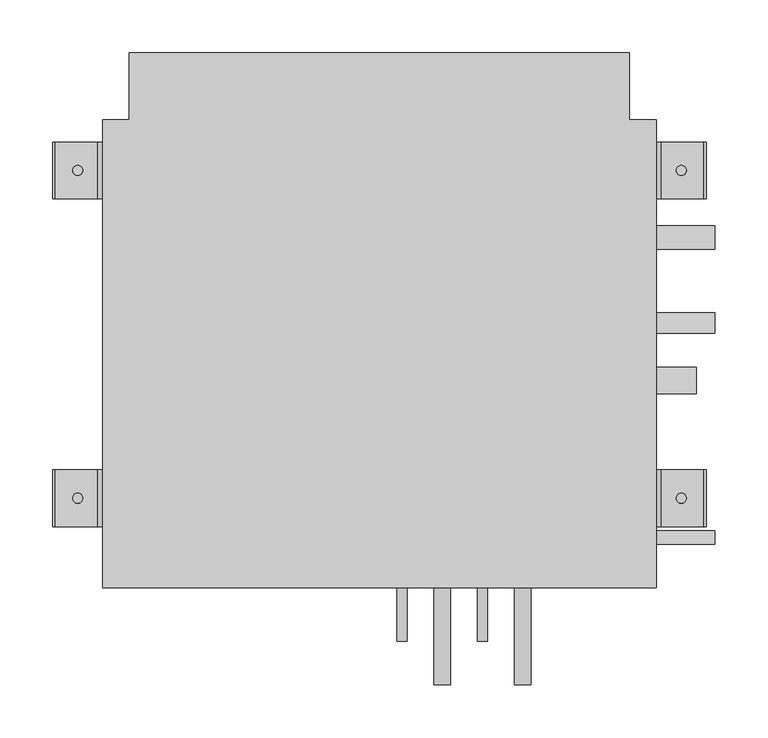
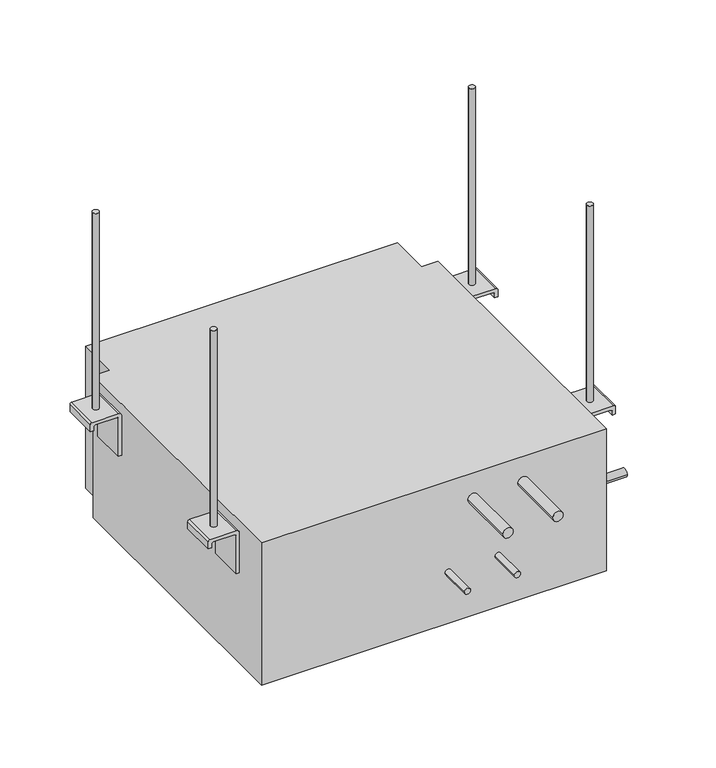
"""IFC4 building model written with IfcOpenShell, lengths in millimetres: proxy geometry, Lennox-VRF-Mode_Selection_Box-V8MSBB01_V8MSBB02-2P_Series : V8MSBB01."""

from ifc_helpers import new_model, si_unit, point, frame, frame_2d, origin, origin_with_axes, place, context, project, spatial, polyline, circle_curve, trimmed, segment, composite_curve, outline, extrude, source, transform, mapped, element, save
from ifc_brep_helpers import plane_surface, cylinder_surface, revolved_surface, advanced_brep


def mechanical_equipment_b168ff37(model_context):
    return source(origin(), model_context, "Body", "SolidModel", [
        advanced_brep(
        [(-262.9186155, -195.834, 146.05), (-262.9186155, -195.834, 210.0259829), (-267.5226326, -195.834, 214.63), (-307.8766155, -195.834, 214.63), (-310.4166155, -195.834, 212.09), (-310.4166155, -195.834, 200.66), (-305.3366155, -195.834, 200.66), (-305.3366155, -195.834, 207.01), (-302.7966155, -195.834, 209.55), (-270.5386155, -195.834, 209.55), (-267.9986155, -195.834, 207.01), (-267.9986155, -195.834, 146.05), (-262.9186155, -141.986, 146.05), (-267.9986155, -141.986, 146.05), (-267.9986155, -141.986, 207.01), (-270.5386155, -141.986, 209.55), (-302.7966155, -141.986, 209.55), (-305.3366155, -141.986, 207.01), (-305.3366155, -141.986, 200.66), (-310.4166155, -141.986, 200.66), (-310.4166155, -141.986, 212.09), (-307.8766155, -141.986, 214.63), (-267.5226326, -141.986, 214.63), (-262.9186155, -141.986, 210.0259829), (-281.9051155, -168.91, 214.63), (-291.4301155, -168.91, 214.63), (-291.4301155, -168.91, 209.55), (-281.9051155, -168.91, 209.55), (-291.4301155, -168.91, 530.6255), (-281.9051155, -168.91, 530.6255), (-291.4301155, -168.91, 198.8375), (-281.9051155, -168.91, 198.8375)],
        [
            (0, 1),
            (1, 2, circle_curve(frame((-267.5226326, -195.834, 210.0259829), z_axis=(0.0, -1.0, 0.0), x_axis=(1.0, 0.0, 0.0)), 4.6040171)),
            (2, 3),
            (3, 4, circle_curve(frame((-307.8766155, -195.834, 212.09), z_axis=(0.0, -1.0, 0.0), x_axis=(1.0, 0.0, 0.0)), 2.54)),
            (4, 5),
            (5, 6),
            (6, 7),
            (7, 8, circle_curve(frame((-302.7966155, -195.834, 207.01), z_axis=(0.0, 1.0, 0.0), x_axis=(1.0, 0.0, 0.0)), 2.54)),
            (8, 9),
            (9, 10, circle_curve(frame((-270.5386155, -195.834, 207.01), z_axis=(0.0, 1.0, 0.0), x_axis=(1.0, 0.0, 0.0)), 2.54)),
            (10, 11),
            (11, 0),
            (12, 13),
            (13, 14),
            (14, 15, circle_curve(frame((-270.5386155, -141.986, 207.01), z_axis=(0.0, -1.0, 0.0), x_axis=(1.0, 0.0, 0.0)), 2.54)),
            (15, 16),
            (16, 17, circle_curve(frame((-302.7966155, -141.986, 207.01), z_axis=(0.0, -1.0, 0.0), x_axis=(1.0, 0.0, 0.0)), 2.54)),
            (17, 18),
            (18, 19),
            (19, 20),
            (20, 21, circle_curve(frame((-307.8766155, -141.986, 212.09), z_axis=(0.0, 1.0, 0.0), x_axis=(1.0, 0.0, 0.0)), 2.54)),
            (21, 22),
            (22, 23, circle_curve(frame((-267.5226326, -141.986, 210.0259829), z_axis=(0.0, 1.0, 0.0), x_axis=(1.0, 0.0, 0.0)), 4.6040171)),
            (23, 12),
            (0, 12),
            (23, 1),
            (22, 2),
            (21, 3),
            (24, 25, circle_curve(frame((-286.6676155, -168.91, 214.63), z_axis=(0.0, 0.0, -1.0), x_axis=(1.0, 0.0, 0.0)), 4.7625)),
            (25, 24, circle_curve(frame((-286.6676155, -168.91, 214.63), z_axis=(0.0, 0.0, -1.0), x_axis=(1.0, 0.0, 0.0)), 4.7625)),
            (20, 4),
            (19, 5),
            (18, 6),
            (17, 7),
            (16, 8),
            (15, 9),
            (26, 27, circle_curve(frame((-286.6676155, -168.91, 209.55), z_axis=(0.0, 0.0, 1.0), x_axis=(1.0, 0.0, 0.0)), 4.7625)),
            (27, 26, circle_curve(frame((-286.6676155, -168.91, 209.55), z_axis=(0.0, 0.0, 1.0), x_axis=(1.0, 0.0, 0.0)), 4.7625)),
            (14, 10),
            (13, 11),
            (28, 29, circle_curve(frame((-286.6676155, -168.91, 530.6255), z_axis=(0.0, 0.0, 1.0), x_axis=(1.0, 0.0, 0.0)), 4.7625)),
            (29, 28, circle_curve(frame((-286.6676155, -168.91, 530.6255), z_axis=(0.0, 0.0, 1.0), x_axis=(1.0, 0.0, 0.0)), 4.7625)),
            (30, 31, circle_curve(frame((-286.6676155, -168.91, 198.8375), z_axis=(0.0, 0.0, -1.0), x_axis=(1.0, 0.0, 0.0)), 4.7625)),
            (31, 30, circle_curve(frame((-286.6676155, -168.91, 198.8375), z_axis=(0.0, 0.0, -1.0), x_axis=(1.0, 0.0, 0.0)), 4.7625)),
            (28, 25),
            (24, 29),
            (31, 27),
            (26, 30),
        ],
        [
            plane_surface(frame((-262.9186155, -195.834, 210.0259829), z_axis=(0.0, -1.0, 0.0), x_axis=(0.0, 0.0, 1.0))),
            plane_surface(frame((-262.9186155, -141.986, 210.0259829), z_axis=(0.0, 1.0, 0.0), x_axis=(0.0, 0.0, -1.0))),
            plane_surface(frame((-262.9186155, -195.834, 146.05), z_axis=(1.0, 0.0, 0.0), x_axis=(0.0, 1.0, 0.0))),
            cylinder_surface(frame((-267.5226326, -141.986, 210.0259829), z_axis=(0.0, -1.0, 0.0), x_axis=(1.0, 0.0, 0.0)), 4.6040171),
            plane_surface(frame((-267.5226326, -195.834, 214.63), z_axis=(0.0, 0.0, 1.0), x_axis=(0.0, 1.0, 0.0))),
            cylinder_surface(frame((-307.8766155, -141.986, 212.09), z_axis=(0.0, -1.0, 0.0), x_axis=(1.0, 0.0, 0.0)), 2.54),
            plane_surface(frame((-310.4166155, -195.834, 212.09), z_axis=(-1.0, 0.0, 0.0), x_axis=(0.0, 1.0, 0.0))),
            plane_surface(frame((-310.4166155, -195.834, 200.66), z_axis=(0.0, 0.0, -1.0), x_axis=(0.0, 1.0, 0.0))),
            plane_surface(frame((-305.3366155, -195.834, 200.66), z_axis=(1.0, 0.0, 0.0), x_axis=(0.0, 1.0, 0.0))),
            revolved_surface(polyline([(-300.25661549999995, -141.986, 207.01), (-300.25661549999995, -195.834, 207.01)]), (-302.7966155, -141.986, 207.01), (0.0, 1.0, 0.0)),
            plane_surface(frame((-302.7966155, -195.834, 209.55), z_axis=(0.0, 0.0, -1.0), x_axis=(0.0, 1.0, 0.0))),
            revolved_surface(polyline([(-267.99861549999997, -141.986, 207.01), (-267.99861549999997, -195.834, 207.01)]), (-270.5386155, -141.986, 207.01), (0.0, 1.0, 0.0)),
            plane_surface(frame((-267.9986155, -195.834, 207.01), z_axis=(-1.0, 0.0, 0.0), x_axis=(0.0, 1.0, 0.0))),
            plane_surface(frame((-267.9986155, -195.834, 146.05), z_axis=(0.0, 0.0, -1.0), x_axis=(0.0, 1.0, 0.0))),
            plane_surface(frame((-281.9051155, 142.2261094, 530.6255), z_axis=(0.0, 0.0, 1.0), x_axis=(0.0, 1.0, 0.0))),
            plane_surface(frame((-281.9051155, 142.2261094, 198.8375), z_axis=(0.0, 0.0, -1.0), x_axis=(0.0, -1.0, 0.0))),
            cylinder_surface(frame((-286.6676155, -168.91, 0.0), z_axis=(0.0, 0.0, 1.0), x_axis=(1.0, 0.0, 0.0)), 4.7625),
        ],
        [
            (0, [[1, 2, 3, 4, 5, 6, 7, 8, 9, 10, 11, 12]]),
            (1, [[13, 14, 15, 16, 17, 18, 19, 20, 21, 22, 23, 24]]),
            (2, [[-1, 25, -24, 26]]),
            (3, [[-2, -26, -23, 27]]),
            (4, [[-3, -27, -22, 28], [29, 30]]),
            (5, [[-4, -28, -21, 31]]),
            (6, [[-5, -31, -20, 32]]),
            (7, [[-6, -32, -19, 33]]),
            (8, [[-7, -33, -18, 34]]),
            (9, [[-8, -34, -17, 35]]),
            (10, [[-9, -35, -16, 36], [37, 38]]),
            (11, [[-10, -36, -15, 39]]),
            (12, [[-11, -39, -14, 40]]),
            (13, [[-12, -40, -13, -25]]),
            (14, [[41, 42]]),
            (15, [[43, 44]]),
            (16, [[-41, 45, -29, 46]]),
            (16, [[-44, 47, -37, 48]]),
            (16, [[-42, -46, -30, -45]]),
            (16, [[-43, -48, -38, -47]]),
        ],
    ),
        advanced_brep(
        [(-262.9186155, 115.2882187, 146.05), (-262.9186155, 115.2882187, 210.0259829), (-267.5226326, 115.2882187, 214.63), (-307.8766155, 115.2882187, 214.63), (-310.4166155, 115.2882187, 212.09), (-310.4166155, 115.2882187, 200.66), (-305.3366155, 115.2882187, 200.66), (-305.3366155, 115.2882187, 207.01), (-302.7966155, 115.2882187, 209.55), (-270.5386155, 115.2882187, 209.55), (-267.9986155, 115.2882187, 207.01), (-267.9986155, 115.2882187, 146.05), (-262.9186155, 169.164, 146.05), (-267.9986155, 169.164, 146.05), (-267.9986155, 169.164, 207.01), (-270.5386155, 169.164, 209.55), (-302.7966155, 169.164, 209.55), (-305.3366155, 169.164, 207.01), (-305.3366155, 169.164, 200.66), (-310.4166155, 169.164, 200.66), (-310.4166155, 169.164, 212.09), (-307.8766155, 169.164, 214.63), (-267.5226326, 169.164, 214.63), (-262.9186155, 169.164, 210.0259829), (-281.9051155, 142.2261094, 214.63), (-291.4301155, 142.2261094, 214.63), (-291.4301155, 142.2261094, 209.55), (-281.9051155, 142.2261094, 209.55), (-291.4301155, 142.2261094, 530.6255), (-281.9051155, 142.2261094, 530.6255), (-291.4301155, 142.2261094, 198.8375), (-281.9051155, 142.2261094, 198.8375)],
        [
            (0, 1),
            (1, 2, circle_curve(frame((-267.5226326, 115.2882187, 210.0259829), z_axis=(0.0, -1.0, 0.0), x_axis=(1.0, 0.0, 0.0)), 4.6040171)),
            (2, 3),
            (3, 4, circle_curve(frame((-307.8766155, 115.2882187, 212.09), z_axis=(0.0, -1.0, 0.0), x_axis=(1.0, 0.0, 0.0)), 2.54)),
            (4, 5),
            (5, 6),
            (6, 7),
            (7, 8, circle_curve(frame((-302.7966155, 115.2882187, 207.01), z_axis=(0.0, 1.0, 0.0), x_axis=(1.0, 0.0, 0.0)), 2.54)),
            (8, 9),
            (9, 10, circle_curve(frame((-270.5386155, 115.2882187, 207.01), z_axis=(0.0, 1.0, 0.0), x_axis=(1.0, 0.0, 0.0)), 2.54)),
            (10, 11),
            (11, 0),
            (12, 13),
            (13, 14),
            (14, 15, circle_curve(frame((-270.5386155, 169.164, 207.01), z_axis=(0.0, -1.0, 0.0), x_axis=(1.0, 0.0, 0.0)), 2.54)),
            (15, 16),
            (16, 17, circle_curve(frame((-302.7966155, 169.164, 207.01), z_axis=(0.0, -1.0, 0.0), x_axis=(1.0, 0.0, 0.0)), 2.54)),
            (17, 18),
            (18, 19),
            (19, 20),
            (20, 21, circle_curve(frame((-307.8766155, 169.164, 212.09), z_axis=(0.0, 1.0, 0.0), x_axis=(1.0, 0.0, 0.0)), 2.54)),
            (21, 22),
            (22, 23, circle_curve(frame((-267.5226326, 169.164, 210.0259829), z_axis=(0.0, 1.0, 0.0), x_axis=(1.0, 0.0, 0.0)), 4.6040171)),
            (23, 12),
            (0, 12),
            (23, 1),
            (22, 2),
            (21, 3),
            (24, 25, circle_curve(frame((-286.6676155, 142.2261094, 214.63), z_axis=(0.0, 0.0, -1.0), x_axis=(1.0, 0.0, 0.0)), 4.7625)),
            (25, 24, circle_curve(frame((-286.6676155, 142.2261094, 214.63), z_axis=(0.0, 0.0, -1.0), x_axis=(1.0, 0.0, 0.0)), 4.7625)),
            (20, 4),
            (19, 5),
            (18, 6),
            (17, 7),
            (16, 8),
            (15, 9),
            (26, 27, circle_curve(frame((-286.6676155, 142.2261094, 209.55), z_axis=(0.0, 0.0, 1.0), x_axis=(1.0, 0.0, 0.0)), 4.7625)),
            (27, 26, circle_curve(frame((-286.6676155, 142.2261094, 209.55), z_axis=(0.0, 0.0, 1.0), x_axis=(1.0, 0.0, 0.0)), 4.7625)),
            (14, 10),
            (13, 11),
            (28, 29, circle_curve(frame((-286.6676155, 142.2261094, 530.6255), z_axis=(0.0, 0.0, 1.0), x_axis=(1.0, 0.0, 0.0)), 4.7625)),
            (29, 28, circle_curve(frame((-286.6676155, 142.2261094, 530.6255), z_axis=(0.0, 0.0, 1.0), x_axis=(1.0, 0.0, 0.0)), 4.7625)),
            (30, 31, circle_curve(frame((-286.6676155, 142.2261094, 198.8375), z_axis=(0.0, 0.0, -1.0), x_axis=(1.0, 0.0, 0.0)), 4.7625)),
            (31, 30, circle_curve(frame((-286.6676155, 142.2261094, 198.8375), z_axis=(0.0, 0.0, -1.0), x_axis=(1.0, 0.0, 0.0)), 4.7625)),
            (28, 25),
            (24, 29),
            (31, 27),
            (26, 30),
        ],
        [
            plane_surface(frame((-262.9186155, 115.2882187, 210.0259829), z_axis=(0.0, -1.0, 0.0), x_axis=(0.0, 0.0, 1.0))),
            plane_surface(frame((-262.9186155, 169.164, 210.0259829), z_axis=(0.0, 1.0, 0.0), x_axis=(0.0, 0.0, -1.0))),
            plane_surface(frame((-262.9186155, 115.2882187, 146.05), z_axis=(1.0, 0.0, 0.0), x_axis=(0.0, 1.0, 0.0))),
            cylinder_surface(frame((-267.5226326, 169.164, 210.0259829), z_axis=(0.0, -1.0, 0.0), x_axis=(1.0, 0.0, 0.0)), 4.6040171),
            plane_surface(frame((-267.5226326, 115.2882187, 214.63), z_axis=(0.0, 0.0, 1.0), x_axis=(0.0, 1.0, 0.0))),
            cylinder_surface(frame((-307.8766155, 169.164, 212.09), z_axis=(0.0, -1.0, 0.0), x_axis=(1.0, 0.0, 0.0)), 2.54),
            plane_surface(frame((-310.4166155, 115.2882187, 212.09), z_axis=(-1.0, 0.0, 0.0), x_axis=(0.0, 1.0, 0.0))),
            plane_surface(frame((-310.4166155, 115.2882187, 200.66), z_axis=(0.0, 0.0, -1.0), x_axis=(0.0, 1.0, 0.0))),
            plane_surface(frame((-305.3366155, 115.2882187, 200.66), z_axis=(1.0, 0.0, 0.0), x_axis=(0.0, 1.0, 0.0))),
            revolved_surface(polyline([(-300.25661549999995, 169.164, 207.01), (-300.25661549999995, 115.2882187, 207.01)]), (-302.7966155, 169.164, 207.01), (0.0, 1.0, 0.0)),
            plane_surface(frame((-302.7966155, 115.2882187, 209.55), z_axis=(0.0, 0.0, -1.0), x_axis=(0.0, 1.0, 0.0))),
            revolved_surface(polyline([(-267.99861549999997, 169.164, 207.01), (-267.99861549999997, 115.2882187, 207.01)]), (-270.5386155, 169.164, 207.01), (0.0, 1.0, 0.0)),
            plane_surface(frame((-267.9986155, 115.2882187, 207.01), z_axis=(-1.0, 0.0, 0.0), x_axis=(0.0, 1.0, 0.0))),
            plane_surface(frame((-267.9986155, 115.2882187, 146.05), z_axis=(0.0, 0.0, -1.0), x_axis=(0.0, 1.0, 0.0))),
            plane_surface(frame((-281.9051155, 142.2261094, 530.6255), z_axis=(0.0, 0.0, 1.0), x_axis=(0.0, 1.0, 0.0))),
            plane_surface(frame((-281.9051155, 142.2261094, 198.8375), z_axis=(0.0, 0.0, -1.0), x_axis=(0.0, -1.0, 0.0))),
            cylinder_surface(frame((-286.6676155, 142.2261094, 198.8375), z_axis=(0.0, 0.0, 1.0), x_axis=(1.0, 0.0, 0.0)), 4.7625),
        ],
        [
            (0, [[1, 2, 3, 4, 5, 6, 7, 8, 9, 10, 11, 12]]),
            (1, [[13, 14, 15, 16, 17, 18, 19, 20, 21, 22, 23, 24]]),
            (2, [[-1, 25, -24, 26]]),
            (3, [[-2, -26, -23, 27]]),
            (4, [[-3, -27, -22, 28], [29, 30]]),
            (5, [[-4, -28, -21, 31]]),
            (6, [[-5, -31, -20, 32]]),
            (7, [[-6, -32, -19, 33]]),
            (8, [[-7, -33, -18, 34]]),
            (9, [[-8, -34, -17, 35]]),
            (10, [[-9, -35, -16, 36], [37, 38]]),
            (11, [[-10, -36, -15, 39]]),
            (12, [[-11, -39, -14, 40]]),
            (13, [[-12, -40, -13, -25]]),
            (14, [[41, 42]]),
            (15, [[43, 44]]),
            (16, [[-41, 45, -29, 46]]),
            (16, [[-44, 47, -37, 48]]),
            (16, [[-42, -46, -30, -45]]),
            (16, [[-43, -48, -38, -47]]),
        ],
    ),
        advanced_brep(
        [(267.9986155, 115.2882187, 146.05), (267.9986155, 115.2882187, 207.01), (270.5386155, 115.2882187, 209.55), (302.7966155, 115.2882187, 209.55), (305.3366155, 115.2882187, 207.01), (305.3366155, 115.2882187, 200.66), (310.4166155, 115.2882187, 200.66), (310.4166155, 115.2882187, 212.09), (307.8766155, 115.2882187, 214.63), (267.5226326, 115.2882187, 214.63), (262.9186155, 115.2882187, 210.0259829), (262.9186155, 115.2882187, 146.05), (267.9986155, 169.164, 146.05), (262.9186155, 169.164, 146.05), (262.9186155, 169.164, 210.0259829), (267.5226326, 169.164, 214.63), (307.8766155, 169.164, 214.63), (310.4166155, 169.164, 212.09), (310.4166155, 169.164, 200.66), (305.3366155, 169.164, 200.66), (305.3366155, 169.164, 207.01), (302.7966155, 169.164, 209.55), (270.5386155, 169.164, 209.55), (267.9986155, 169.164, 207.01), (281.9051155, 142.2261094, 209.55), (291.4301155, 142.2261094, 209.55), (291.4301155, 142.2261094, 214.63), (281.9051155, 142.2261094, 214.63), (281.9051155, 142.2261094, 530.6255), (291.4301155, 142.2261094, 530.6255), (281.9051155, 142.2261094, 198.8375), (291.4301155, 142.2261094, 198.8375)],
        [
            (0, 1),
            (1, 2, circle_curve(frame((270.5386155, 115.2882187, 207.01), z_axis=(0.0, 1.0, 0.0), x_axis=(1.0, 0.0, 0.0)), 2.54)),
            (2, 3),
            (3, 4, circle_curve(frame((302.7966155, 115.2882187, 207.01), z_axis=(0.0, 1.0, 0.0), x_axis=(1.0, 0.0, 0.0)), 2.54)),
            (4, 5),
            (5, 6),
            (6, 7),
            (7, 8, circle_curve(frame((307.8766155, 115.2882187, 212.09), z_axis=(0.0, -1.0, 0.0), x_axis=(1.0, 0.0, 0.0)), 2.54)),
            (8, 9),
            (9, 10, circle_curve(frame((267.5226326, 115.2882187, 210.0259829), z_axis=(0.0, -1.0, 0.0), x_axis=(1.0, 0.0, 0.0)), 4.6040171)),
            (10, 11),
            (11, 0),
            (12, 13),
            (13, 14),
            (14, 15, circle_curve(frame((267.5226326, 169.164, 210.0259829), z_axis=(0.0, 1.0, 0.0), x_axis=(1.0, 0.0, 0.0)), 4.6040171)),
            (15, 16),
            (16, 17, circle_curve(frame((307.8766155, 169.164, 212.09), z_axis=(0.0, 1.0, 0.0), x_axis=(1.0, 0.0, 0.0)), 2.54)),
            (17, 18),
            (18, 19),
            (19, 20),
            (20, 21, circle_curve(frame((302.7966155, 169.164, 207.01), z_axis=(0.0, -1.0, 0.0), x_axis=(1.0, 0.0, 0.0)), 2.54)),
            (21, 22),
            (22, 23, circle_curve(frame((270.5386155, 169.164, 207.01), z_axis=(0.0, -1.0, 0.0), x_axis=(1.0, 0.0, 0.0)), 2.54)),
            (23, 12),
            (0, 12),
            (23, 1),
            (22, 2),
            (21, 3),
            (24, 25, circle_curve(frame((286.6676155, 142.2261094, 209.55), z_axis=(0.0, 0.0, 1.0), x_axis=(1.0, 0.0, 0.0)), 4.7625)),
            (25, 24, circle_curve(frame((286.6676155, 142.2261094, 209.55), z_axis=(0.0, 0.0, 1.0), x_axis=(1.0, 0.0, 0.0)), 4.7625)),
            (20, 4),
            (19, 5),
            (18, 6),
            (17, 7),
            (16, 8),
            (15, 9),
            (26, 27, circle_curve(frame((286.6676155, 142.2261094, 214.63), z_axis=(0.0, 0.0, -1.0), x_axis=(1.0, 0.0, 0.0)), 4.7625)),
            (27, 26, circle_curve(frame((286.6676155, 142.2261094, 214.63), z_axis=(0.0, 0.0, -1.0), x_axis=(1.0, 0.0, 0.0)), 4.7625)),
            (14, 10),
            (13, 11),
            (28, 29, circle_curve(frame((286.6676155, 142.2261094, 530.6255), z_axis=(0.0, 0.0, 1.0), x_axis=(1.0, 0.0, 0.0)), 4.7625)),
            (29, 28, circle_curve(frame((286.6676155, 142.2261094, 530.6255), z_axis=(0.0, 0.0, 1.0), x_axis=(1.0, 0.0, 0.0)), 4.7625)),
            (30, 31, circle_curve(frame((286.6676155, 142.2261094, 198.8375), z_axis=(0.0, 0.0, -1.0), x_axis=(1.0, 0.0, 0.0)), 4.7625)),
            (31, 30, circle_curve(frame((286.6676155, 142.2261094, 198.8375), z_axis=(0.0, 0.0, -1.0), x_axis=(1.0, 0.0, 0.0)), 4.7625)),
            (28, 27),
            (26, 29),
            (31, 25),
            (24, 30),
        ],
        [
            plane_surface(frame((267.9986155, 115.2882187, 146.05), z_axis=(0.0, -1.0, 0.0), x_axis=(0.0, 0.0, 1.0))),
            plane_surface(frame((267.9986155, 169.164, 146.05), z_axis=(0.0, 1.0, 0.0), x_axis=(0.0, 0.0, -1.0))),
            plane_surface(frame((267.9986155, 115.2882187, 146.05), z_axis=(1.0, 0.0, 0.0), x_axis=(0.0, 1.0, 0.0))),
            revolved_surface(polyline([(273.0786155, 169.164, 207.01), (273.0786155, 115.2882187, 207.01)]), (270.5386155, 169.164, 207.01), (0.0, 1.0, 0.0)),
            plane_surface(frame((270.5386155, 115.2882187, 209.55), z_axis=(0.0, 0.0, -1.0), x_axis=(0.0, 1.0, 0.0))),
            revolved_surface(polyline([(305.3366155, 169.164, 207.01), (305.3366155, 115.2882187, 207.01)]), (302.7966155, 169.164, 207.01), (0.0, 1.0, 0.0)),
            plane_surface(frame((305.3366155, 115.2882187, 207.01), z_axis=(-1.0, 0.0, 0.0), x_axis=(0.0, 1.0, 0.0))),
            plane_surface(frame((305.3366155, 115.2882187, 200.66), z_axis=(0.0, 0.0, -1.0), x_axis=(0.0, 1.0, 0.0))),
            plane_surface(frame((310.4166155, 115.2882187, 200.66), z_axis=(1.0, 0.0, 0.0), x_axis=(0.0, 1.0, 0.0))),
            cylinder_surface(frame((307.8766155, 169.164, 212.09), z_axis=(0.0, -1.0, 0.0), x_axis=(1.0, 0.0, 0.0)), 2.54),
            plane_surface(frame((307.8766155, 115.2882187, 214.63), z_axis=(0.0, 0.0, 1.0), x_axis=(0.0, 1.0, 0.0))),
            cylinder_surface(frame((267.5226326, 169.164, 210.0259829), z_axis=(0.0, -1.0, 0.0), x_axis=(1.0, 0.0, 0.0)), 4.6040171),
            plane_surface(frame((262.9186155, 115.2882187, 210.0259829), z_axis=(-1.0, 0.0, 0.0), x_axis=(0.0, 1.0, 0.0))),
            plane_surface(frame((262.9186155, 115.2882187, 146.05), z_axis=(0.0, 0.0, -1.0), x_axis=(0.0, 1.0, 0.0))),
            plane_surface(frame((-281.9051155, 142.2261094, 530.6255), z_axis=(0.0, 0.0, 1.0), x_axis=(0.0, 1.0, 0.0))),
            plane_surface(frame((-281.9051155, 142.2261094, 198.8375), z_axis=(0.0, 0.0, -1.0), x_axis=(0.0, -1.0, 0.0))),
            cylinder_surface(frame((286.6676155, 142.2261094, 0.0), z_axis=(0.0, 0.0, 1.0), x_axis=(1.0, 0.0, 0.0)), 4.7625),
        ],
        [
            (0, [[1, 2, 3, 4, 5, 6, 7, 8, 9, 10, 11, 12]]),
            (1, [[13, 14, 15, 16, 17, 18, 19, 20, 21, 22, 23, 24]]),
            (2, [[-1, 25, -24, 26]]),
            (3, [[-2, -26, -23, 27]]),
            (4, [[-3, -27, -22, 28], [29, 30]]),
            (5, [[-4, -28, -21, 31]]),
            (6, [[-5, -31, -20, 32]]),
            (7, [[-6, -32, -19, 33]]),
            (8, [[-7, -33, -18, 34]]),
            (9, [[-8, -34, -17, 35]]),
            (10, [[-9, -35, -16, 36], [37, 38]]),
            (11, [[-10, -36, -15, 39]]),
            (12, [[-11, -39, -14, 40]]),
            (13, [[-12, -40, -13, -25]]),
            (14, [[41, 42]]),
            (15, [[43, 44]]),
            (16, [[-41, 45, -37, 46]]),
            (16, [[-44, 47, -29, 48]]),
            (16, [[-42, -46, -38, -45]]),
            (16, [[-43, -48, -30, -47]]),
        ],
    ),
        advanced_brep(
        [(267.9986155, -195.834, 146.05), (267.9986155, -195.834, 207.01), (270.5386155, -195.834, 209.55), (302.7966155, -195.834, 209.55), (305.3366155, -195.834, 207.01), (305.3366155, -195.834, 200.66), (310.4166155, -195.834, 200.66), (310.4166155, -195.834, 212.09), (307.8766155, -195.834, 214.63), (267.5226326, -195.834, 214.63), (262.9186155, -195.834, 210.0259829), (262.9186155, -195.834, 146.05), (267.9986155, -141.986, 146.05), (262.9186155, -141.986, 146.05), (262.9186155, -141.986, 210.0259829), (267.5226326, -141.986, 214.63), (307.8766155, -141.986, 214.63), (310.4166155, -141.986, 212.09), (310.4166155, -141.986, 200.66), (305.3366155, -141.986, 200.66), (305.3366155, -141.986, 207.01), (302.7966155, -141.986, 209.55), (270.5386155, -141.986, 209.55), (267.9986155, -141.986, 207.01), (281.9051155, -168.91, 209.55), (291.4301155, -168.91, 209.55), (291.4301155, -168.91, 214.63), (281.9051155, -168.91, 214.63), (281.9051155, -168.91, 530.6255), (291.4301155, -168.91, 530.6255), (281.9051155, -168.91, 198.8375), (291.4301155, -168.91, 198.8375)],
        [
            (0, 1),
            (1, 2, circle_curve(frame((270.5386155, -195.834, 207.01), z_axis=(0.0, 1.0, 0.0), x_axis=(1.0, 0.0, 0.0)), 2.54)),
            (2, 3),
            (3, 4, circle_curve(frame((302.7966155, -195.834, 207.01), z_axis=(0.0, 1.0, 0.0), x_axis=(1.0, 0.0, 0.0)), 2.54)),
            (4, 5),
            (5, 6),
            (6, 7),
            (7, 8, circle_curve(frame((307.8766155, -195.834, 212.09), z_axis=(0.0, -1.0, 0.0), x_axis=(1.0, 0.0, 0.0)), 2.54)),
            (8, 9),
            (9, 10, circle_curve(frame((267.5226326, -195.834, 210.0259829), z_axis=(0.0, -1.0, 0.0), x_axis=(1.0, 0.0, 0.0)), 4.6040171)),
            (10, 11),
            (11, 0),
            (12, 13),
            (13, 14),
            (14, 15, circle_curve(frame((267.5226326, -141.986, 210.0259829), z_axis=(0.0, 1.0, 0.0), x_axis=(1.0, 0.0, 0.0)), 4.6040171)),
            (15, 16),
            (16, 17, circle_curve(frame((307.8766155, -141.986, 212.09), z_axis=(0.0, 1.0, 0.0), x_axis=(1.0, 0.0, 0.0)), 2.54)),
            (17, 18),
            (18, 19),
            (19, 20),
            (20, 21, circle_curve(frame((302.7966155, -141.986, 207.01), z_axis=(0.0, -1.0, 0.0), x_axis=(1.0, 0.0, 0.0)), 2.54)),
            (21, 22),
            (22, 23, circle_curve(frame((270.5386155, -141.986, 207.01), z_axis=(0.0, -1.0, 0.0), x_axis=(1.0, 0.0, 0.0)), 2.54)),
            (23, 12),
            (0, 12),
            (23, 1),
            (22, 2),
            (21, 3),
            (24, 25, circle_curve(frame((286.6676155, -168.91, 209.55), z_axis=(0.0, 0.0, 1.0), x_axis=(1.0, 0.0, 0.0)), 4.7625)),
            (25, 24, circle_curve(frame((286.6676155, -168.91, 209.55), z_axis=(0.0, 0.0, 1.0), x_axis=(1.0, 0.0, 0.0)), 4.7625)),
            (20, 4),
            (19, 5),
            (18, 6),
            (17, 7),
            (16, 8),
            (15, 9),
            (26, 27, circle_curve(frame((286.6676155, -168.91, 214.63), z_axis=(0.0, 0.0, -1.0), x_axis=(1.0, 0.0, 0.0)), 4.7625)),
            (27, 26, circle_curve(frame((286.6676155, -168.91, 214.63), z_axis=(0.0, 0.0, -1.0), x_axis=(1.0, 0.0, 0.0)), 4.7625)),
            (14, 10),
            (13, 11),
            (28, 29, circle_curve(frame((286.6676155, -168.91, 530.6255), z_axis=(0.0, 0.0, 1.0), x_axis=(1.0, 0.0, 0.0)), 4.7625)),
            (29, 28, circle_curve(frame((286.6676155, -168.91, 530.6255), z_axis=(0.0, 0.0, 1.0), x_axis=(1.0, 0.0, 0.0)), 4.7625)),
            (30, 31, circle_curve(frame((286.6676155, -168.91, 198.8375), z_axis=(0.0, 0.0, -1.0), x_axis=(1.0, 0.0, 0.0)), 4.7625)),
            (31, 30, circle_curve(frame((286.6676155, -168.91, 198.8375), z_axis=(0.0, 0.0, -1.0), x_axis=(1.0, 0.0, 0.0)), 4.7625)),
            (28, 27),
            (26, 29),
            (31, 25),
            (24, 30),
        ],
        [
            plane_surface(frame((267.9986155, -195.834, 146.05), z_axis=(0.0, -1.0, 0.0), x_axis=(0.0, 0.0, 1.0))),
            plane_surface(frame((267.9986155, -141.986, 146.05), z_axis=(0.0, 1.0, 0.0), x_axis=(0.0, 0.0, -1.0))),
            plane_surface(frame((267.9986155, -195.834, 146.05), z_axis=(1.0, 0.0, 0.0), x_axis=(0.0, 1.0, 0.0))),
            revolved_surface(polyline([(273.0786155, -141.986, 207.01), (273.0786155, -195.834, 207.01)]), (270.5386155, -141.986, 207.01), (0.0, 1.0, 0.0)),
            plane_surface(frame((270.5386155, -195.834, 209.55), z_axis=(0.0, 0.0, -1.0), x_axis=(0.0, 1.0, 0.0))),
            revolved_surface(polyline([(305.3366155, -141.986, 207.01), (305.3366155, -195.834, 207.01)]), (302.7966155, -141.986, 207.01), (0.0, 1.0, 0.0)),
            plane_surface(frame((305.3366155, -195.834, 207.01), z_axis=(-1.0, 0.0, 0.0), x_axis=(0.0, 1.0, 0.0))),
            plane_surface(frame((305.3366155, -195.834, 200.66), z_axis=(0.0, 0.0, -1.0), x_axis=(0.0, 1.0, 0.0))),
            plane_surface(frame((310.4166155, -195.834, 200.66), z_axis=(1.0, 0.0, 0.0), x_axis=(0.0, 1.0, 0.0))),
            cylinder_surface(frame((307.8766155, -141.986, 212.09), z_axis=(0.0, -1.0, 0.0), x_axis=(1.0, 0.0, 0.0)), 2.54),
            plane_surface(frame((307.8766155, -195.834, 214.63), z_axis=(0.0, 0.0, 1.0), x_axis=(0.0, 1.0, 0.0))),
            cylinder_surface(frame((267.5226326, -141.986, 210.0259829), z_axis=(0.0, -1.0, 0.0), x_axis=(1.0, 0.0, 0.0)), 4.6040171),
            plane_surface(frame((262.9186155, -195.834, 210.0259829), z_axis=(-1.0, 0.0, -4.238413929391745e-12), x_axis=(0.0, 1.0, 0.0))),
            plane_surface(frame((262.9186155, -195.834, 146.05), z_axis=(0.0, 0.0, -1.0), x_axis=(0.0, 1.0, 0.0))),
            plane_surface(frame((-281.9051155, 142.2261094, 530.6255), z_axis=(0.0, 0.0, 1.0), x_axis=(0.0, 1.0, 0.0))),
            plane_surface(frame((-281.9051155, 142.2261094, 198.8375), z_axis=(0.0, 0.0, -1.0), x_axis=(0.0, -1.0, 0.0))),
            cylinder_surface(frame((286.6676155, -168.91, 0.0), z_axis=(0.0, 0.0, 1.0), x_axis=(1.0, 0.0, 0.0)), 4.7625),
        ],
        [
            (0, [[1, 2, 3, 4, 5, 6, 7, 8, 9, 10, 11, 12]]),
            (1, [[13, 14, 15, 16, 17, 18, 19, 20, 21, 22, 23, 24]]),
            (2, [[-1, 25, -24, 26]]),
            (3, [[-2, -26, -23, 27]]),
            (4, [[-3, -27, -22, 28], [29, 30]]),
            (5, [[-4, -28, -21, 31]]),
            (6, [[-5, -31, -20, 32]]),
            (7, [[-6, -32, -19, 33]]),
            (8, [[-7, -33, -18, 34]]),
            (9, [[-8, -34, -17, 35]]),
            (10, [[-9, -35, -16, 36], [37, 38]]),
            (11, [[-10, -36, -15, 39]]),
            (12, [[-11, -39, -14, 40]]),
            (13, [[-12, -40, -13, -25]]),
            (14, [[41, 42]]),
            (15, [[43, 44]]),
            (16, [[-41, 45, -37, 46]]),
            (16, [[-44, 47, -29, 48]]),
            (16, [[-42, -46, -38, -45]]),
            (16, [[-43, -48, -30, -47]]),
        ],
    ),
        extrude(outline(composite_curve([segment(trimmed(circle_curve(frame_2d((82.55, 97.8186155)), 4.7625), [point((82.55, 93.0561155))], [point((82.55, 102.5811155))], False, "CARTESIAN"), True, "CONTINUOUS"), segment(trimmed(circle_curve(frame_2d((82.55, 97.8186155)), 4.7625), [point((82.55, 102.5811155))], [point((82.55, 93.0561155))], False, "CARTESIAN"), True, "CONTINUOUS")], self_intersect=False)), frame((0.0, -304.8, 0.0), z_axis=(0.0, 1.0, 0.0), x_axis=(0.0, 0.0, 1.0)), (0.0, 0.0, 1.0), 50.8),
        extrude(outline(composite_curve([segment(trimmed(circle_curve(frame_2d((82.55, 21.6186155)), 4.7625), [point((82.55, 16.8561155))], [point((82.55, 26.3811155))], False, "CARTESIAN"), True, "CONTINUOUS"), segment(trimmed(circle_curve(frame_2d((82.55, 21.6186155)), 4.7625), [point((82.55, 26.3811155))], [point((82.55, 16.8561155))], False, "CARTESIAN"), True, "CONTINUOUS")], self_intersect=False)), frame((0.0, -304.8, 0.0), z_axis=(0.0, 1.0, 0.0), x_axis=(0.0, 0.0, 1.0)), (0.0, 0.0, 1.0), 50.8),
        extrude(outline(composite_curve([segment(trimmed(circle_curve(frame_2d((187.96, 135.9186155)), 7.9375), [point((187.96, 127.9811155))], [point((187.96, 143.8561155))], False, "CARTESIAN"), True, "CONTINUOUS"), segment(trimmed(circle_curve(frame_2d((187.96, 135.9186155)), 7.9375), [point((187.96, 143.8561155))], [point((187.96, 127.9811155))], False, "CARTESIAN"), True, "CONTINUOUS")], self_intersect=False)), frame((0.0, -346.0, 0.0), z_axis=(0.0, 1.0, 0.0), x_axis=(0.0, 0.0, 1.0)), (0.0, 0.0, 1.0), 92.0),
        extrude(outline(composite_curve([segment(trimmed(circle_curve(frame_2d((187.96, 59.7186155)), 7.9375), [point((187.96, 51.7811155))], [point((187.96, 67.6561155))], False, "CARTESIAN"), True, "CONTINUOUS"), segment(trimmed(circle_curve(frame_2d((187.96, 59.7186155)), 7.9375), [point((187.96, 67.6561155))], [point((187.96, 51.7811155))], False, "CARTESIAN"), True, "CONTINUOUS")], self_intersect=False)), frame((0.0, -346.0, 0.0), z_axis=(0.0, 1.0, 0.0), x_axis=(0.0, 0.0, 1.0)), (0.0, 0.0, 1.0), 92.0),
        extrude(outline(composite_curve([segment(trimmed(circle_curve(frame_2d((78.74, 105.41)), 11.1125), [point((67.6275, 105.41))], [point((89.8525, 105.41))], False, "CARTESIAN"), True, "CONTINUOUS"), segment(trimmed(circle_curve(frame_2d((78.74, 105.41)), 11.1125), [point((89.8525, 105.41))], [point((67.6275, 105.41))], False, "CARTESIAN"), True, "CONTINUOUS")], self_intersect=False)), frame((262.9186155, 0.0, 0.0), z_axis=(1.0, 0.0, 0.0), x_axis=(0.0, 1.0, 0.0)), (0.0, 0.0, 1.0), 55.664769),
        extrude(outline(composite_curve([segment(trimmed(circle_curve(frame_2d((-2.54, 75.438)), 9.525), [point((-12.065, 75.438))], [point((6.985, 75.438))], False, "CARTESIAN"), True, "CONTINUOUS"), segment(trimmed(circle_curve(frame_2d((-2.54, 75.438)), 9.525), [point((6.985, 75.438))], [point((-12.065, 75.438))], False, "CARTESIAN"), True, "CONTINUOUS")], self_intersect=False)), frame((262.9186155, 0.0, 0.0), z_axis=(1.0, 0.0, 0.0), x_axis=(0.0, 1.0, 0.0)), (0.0, 0.0, 1.0), 55.664769),
        extrude(outline(composite_curve([segment(trimmed(circle_curve(frame_2d((-57.15, 19.685)), 12.7), [point((-69.85, 19.685))], [point((-44.45, 19.685))], False, "CARTESIAN"), True, "CONTINUOUS"), segment(trimmed(circle_curve(frame_2d((-57.15, 19.685)), 12.7), [point((-44.45, 19.685))], [point((-69.85, 19.685))], False, "CARTESIAN"), True, "CONTINUOUS")], self_intersect=False)), frame((262.9186155, 0.0, 0.0), z_axis=(1.0, 0.0, 0.0), x_axis=(0.0, 1.0, 0.0)), (0.0, 0.0, 1.0), 38.1),
        extrude(outline(composite_curve([segment(trimmed(circle_curve(frame_2d((-206.0956, 109.982)), 6.35), [point((-212.4456, 109.982))], [point((-199.7456, 109.982))], False, "CARTESIAN"), True, "CONTINUOUS"), segment(trimmed(circle_curve(frame_2d((-206.0956, 109.982)), 6.35), [point((-199.7456, 109.982))], [point((-212.4456, 109.982))], False, "CARTESIAN"), True, "CONTINUOUS")], self_intersect=False)), frame((262.9186155, 0.0, 0.0), z_axis=(1.0, 0.0, 0.0), x_axis=(0.0, 1.0, 0.0)), (0.0, 0.0, 1.0), 55.664769),
        extrude(outline(polyline([(237.5186155, 254.0), (237.5186155, 190.5), (262.9186155, 190.5), (262.9186155, -254.0), (-262.9186155, -254.0), (-262.9186155, 190.5), (-237.5186155, 190.5), (-237.5186155, 254.0), (237.5186155, 254.0)])), origin_with_axes(), (0.0, 0.0, 1.0), 229.0),
    ])


if __name__ == "__main__":
    model = new_model("IFC4")
    model_context = context("Model", 3, world=origin())
    ifc_project = project(units=[si_unit("LENGTHUNIT", "METRE", prefix="MILLI")], contexts=[model_context])
    site = spatial("IfcSite", under=ifc_project)
    building = spatial("IfcBuilding", under=site)
    placement = place(None, origin())
    mechanical_equipment_shape = mechanical_equipment_b168ff37(model_context)
    element("IfcBuildingElementProxy", 1, Name="Lennox-VRF-Mode_Selection_Box-V8MSBB01_V8MSBB02-2P_Series : V8MSBB01", ObjectType="Lennox-VRF-Mode_Selection_Box-V8MSBB01_V8MSBB02-2P_Series : V8MSBB01", at=placement, inside=building, context=model_context, shape_type="MappedRepresentation", body=[
        mapped(mechanical_equipment_shape, transform((0.0, 0.0, 0.0), x_axis=(1.0, 0.0, 0.0), y_axis=(0.0, 1.0, 0.0), z_axis=(0.0, 0.0, 1.0))),
    ])
    save(model, "model.ifc")
